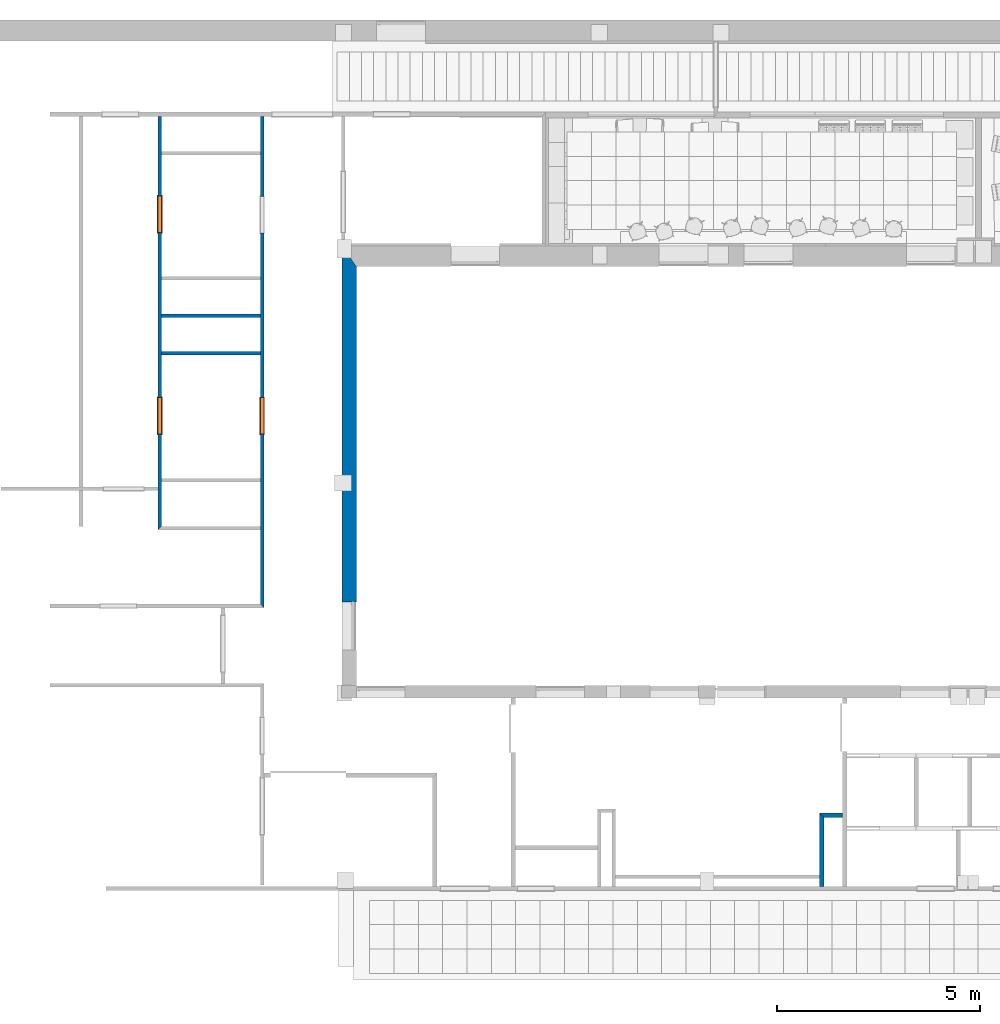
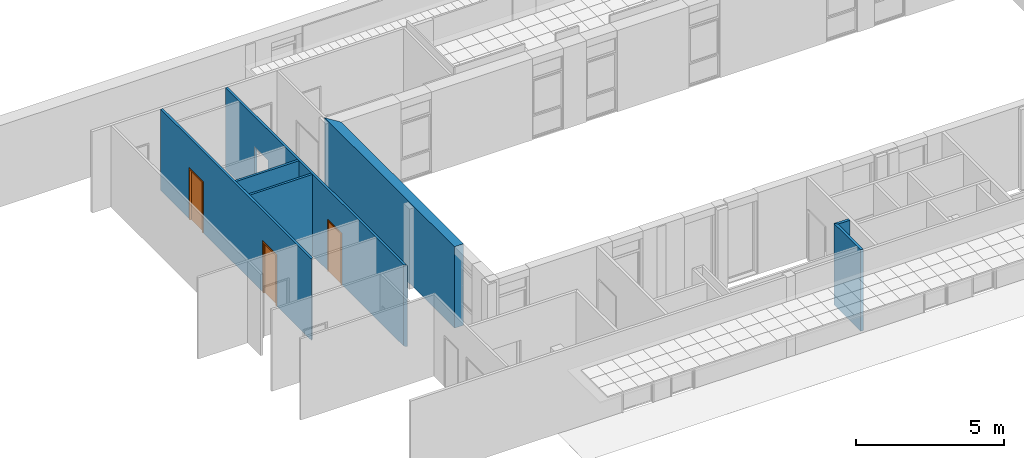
# One storey, part 28 of 60: 7 walls, 3 proxies, 4 openings.
"""IFC2X3 building model written with IfcOpenShell, lengths in millimetres."""

from ifc_helpers import new_model, entity, si_unit, converted_unit, derived_unit, money_unit, direction, frame, origin_with_axes, origin_2d_with_axis, place, context, subcontext, project, spatial, polyline, rectangle, outline, extrude, faceted_brep, source, transform, mapped, material, layer, layer_set, layer_usage, type_object, element, fill, save


model = new_model("IFC2X3")

# Units and contexts
model_context = context("Model", 3, precision=0.01, world=origin_with_axes(), true_north=direction((0.0, 1.0)))
body_context = subcontext(model_context, "Body", "Model", "MODEL_VIEW")
ifc_project = project(units=[si_unit("LENGTHUNIT", "METRE", prefix="MILLI"), si_unit("AREAUNIT", "SQUARE_METRE"), si_unit("VOLUMEUNIT", "CUBIC_METRE"), converted_unit("PLANEANGLEUNIT", "DEGREE", entity("IfcPlaneAngleMeasure", 0.0174532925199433), si_unit("PLANEANGLEUNIT", "RADIAN"), dimensions=[0, 0, 0, 0, 0, 0, 0]), money_unit("USD"), converted_unit("TIMEUNIT", "Year", entity("IfcTimeMeasure", 31557600.0), si_unit("TIMEUNIT", "SECOND"), dimensions=[0, 0, 1, 0, 0, 0, 0]), si_unit("MASSUNIT", "GRAM", prefix="KILO"), si_unit("THERMODYNAMICTEMPERATUREUNIT", "DEGREE_CELSIUS"), si_unit("LUMINOUSINTENSITYUNIT", "LUMEN"), si_unit("ENERGYUNIT", "JOULE", prefix="MEGA"), derived_unit("THERMALCONDUCTANCEUNIT", [(si_unit("POWERUNIT", "WATT"), 1), (si_unit("LENGTHUNIT", "METRE"), -1), (si_unit("THERMODYNAMICTEMPERATUREUNIT", "KELVIN"), -1)]), derived_unit("SPECIFICHEATCAPACITYUNIT", [(si_unit("ENERGYUNIT", "JOULE"), 1), (si_unit("MASSUNIT", "GRAM", prefix="KILO"), -1), (si_unit("THERMODYNAMICTEMPERATUREUNIT", "KELVIN"), -1)]), derived_unit("MASSDENSITYUNIT", [(si_unit("MASSUNIT", "GRAM", prefix="KILO"), 1), (si_unit("VOLUMEUNIT", "CUBIC_METRE"), -1)])], contexts=[model_context])

# Site, building, storey
site_placement = place(None, origin_with_axes())
site = spatial("IfcSite", under=ifc_project, at=site_placement, Name="Sitio", CompositionType="ELEMENT")
building_placement = place(site_placement, origin_with_axes())
building = spatial("IfcBuilding", under=site, at=building_placement, Name="Construcción", CompositionType="ELEMENT")
storey_placement = place(building_placement, frame((0.0, 0.0, 3650.0), z_axis=(0.0, 0.0, 1.0), x_axis=(1.0, 0.0, 0.0)))
storey = spatial("IfcBuildingStorey", under=building, at=storey_placement, Name="PLANTA 2ª", CompositionType="ELEMENT", Elevation=3650.0)

# Walls
ifc_material_1 = material(Name="ARQ_CE217_Gero")
ifc_layer_1 = layer(ifc_material_1, 150.0, ventilated="UNKNOWN")
ifc_material_2 = material(Name="ARQ_AI031_Aillament_Poliestireno expandido EPS")
ifc_layer_2 = layer(ifc_material_2, 140.0, ventilated="UNKNOWN")
ifc_material_3 = material(Name="ARQ_CE218_Ceramic")
ifc_layer_3 = layer(ifc_material_3, 50.0, ventilated="UNKNOWN")
ifc_material_4 = material(Name="ARQ_AM246_Arrebossat_De_Guix")
ifc_layer_4 = layer(ifc_material_4, 20.0, ventilated="UNKNOWN")
ifc_layer_set_1 = layer_set([ifc_layer_1, ifc_layer_2, ifc_layer_3, ifc_layer_4], Name="façana pati CR4")
ifc_layer_usage_1 = layer_usage(ifc_layer_set_1, "AXIS2", "POSITIVE", -360.0000000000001)
wall_type_1 = type_object("IfcWallType", Name="façana pati CR4 360", PredefinedType="NOTDEFINED")
wall_1_placement = place(storey_placement, frame((-28050.84818028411, -9964.97582371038, 0.0), z_axis=(0.0, 0.0, 1.0), x_axis=(0.0, 1.0, 0.0)))
element("IfcWallStandardCase", 1, at=wall_1_placement, inside=storey, type_object=wall_type_1, material=ifc_layer_usage_1, Name="MS-200", context=body_context, shape_type="SweptSolid", body=[
    extrude(outline(polyline([(0.0, -359.9999999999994), (8265.999999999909, -359.9999999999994), (8770.99999999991, 0.0), (0.0, 0.0), (0.0, -359.9999999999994)])), origin_with_axes(), (0.0, 0.0, 1.0), 3350.0),
])
ifc_layer_5 = layer(ifc_material_4, 10.0, ventilated="UNKNOWN")
ifc_layer_6 = layer(ifc_material_1, 90.0, ventilated="UNKNOWN")
ifc_layer_7 = layer(ifc_material_4, 10.0, ventilated="UNKNOWN")
ifc_layer_set_2 = layer_set([ifc_layer_5, ifc_layer_6, ifc_layer_7], Name="CR Enva Totxana")
ifc_layer_usage_2 = layer_usage(ifc_layer_set_2, "AXIS2", "POSITIVE", -110.0)
wall_type_2 = type_object("IfcWallType", Name="CR Enva Totxana 110", PredefinedType="NOTDEFINED")
wall_2_placement = place(storey_placement, frame((-16281.10900490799, -17083.97582371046, 0.0), z_axis=(0.0, 0.0, 1.0), x_axis=(0.0, 1.0, 0.0)))
element("IfcWallStandardCase", 2, at=wall_2_placement, inside=storey, type_object=wall_type_2, material=ifc_layer_usage_2, Name="MS-201", context=body_context, shape_type="SweptSolid", body=[
    extrude(outline(polyline([(109.9999999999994, -109.9999999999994), (1805.000000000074, -109.9999999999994), (1915.000000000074, 0.0), (109.9999999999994, 0.0), (109.9999999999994, -109.9999999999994)])), origin_with_axes(), (0.0, 0.0, 1.0), 3350.0),
])
ifc_layer_usage_3 = layer_usage(ifc_layer_set_2, "AXIS2", "POSITIVE", -110.0)
wall_3_placement = place(storey_placement, frame((-15716.10900490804, -15278.97582371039, 0.0), z_axis=(0.0, 0.0, 1.0), x_axis=(-1.0, 0.0, 0.0)))
element("IfcWallStandardCase", 3, at=wall_3_placement, inside=storey, type_object=wall_type_2, material=ifc_layer_usage_3, Name="MS-201", context=body_context, shape_type="SweptSolid", body=[
    extrude(outline(polyline([(0.0, -109.9999999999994), (564.9999999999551, -109.9999999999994), (454.9999999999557, 0.0), (0.0, 0.0), (0.0, -109.9999999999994)])), origin_with_axes(), (0.0, 0.0, 1.0), 3350.0),
])

# Wall, openings, proxy
ifc_layer_8 = layer(ifc_material_4, 10.0, ventilated="UNKNOWN")
ifc_layer_9 = layer(ifc_material_1, 70.0, ventilated="UNKNOWN")
ifc_layer_10 = layer(ifc_material_4, 10.0, ventilated="UNKNOWN")
ifc_layer_set_3 = layer_set([ifc_layer_8, ifc_layer_9, ifc_layer_10], Name="CR Enva Totxaneta")
ifc_layer_usage_4 = layer_usage(ifc_layer_set_3, "AXIS2", "POSITIVE", 0.0)
wall_type_3 = type_object("IfcWallType", Name="CR Enva Totxaneta 90", PredefinedType="NOTDEFINED")
wall_4_placement = place(storey_placement, frame((-29972.67583112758, -10020.40756299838, 0.0), z_axis=(0.0, 0.0, 1.0), x_axis=(0.0, 1.0, 0.0)))
wall_4 = element("IfcWallStandardCase", 4, at=wall_4_placement, inside=storey, type_object=wall_type_3, material=ifc_layer_usage_4, Name="MS-203", context=body_context, shape_type="SweptSolid", body=[
    extrude(outline(polyline([(-89.99999999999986, 0.0), (12019.96243373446, 0.0), (12019.96243373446, 89.99999999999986), (0.0, 89.99999999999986), (-89.99999999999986, 0.0)])), origin_with_axes(), (0.0, 0.0, 1.0), 3350.0),
])
opening_1_placement = place(wall_4_placement, frame((9595.054136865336, 0.0, 0.0), z_axis=(0.0, 0.0, 1.0), x_axis=(1.0, 0.0, 0.0)))
element("IfcOpeningElement", 5, at=opening_1_placement, cuts=wall_4, Name="PF-19D", context=body_context, shape_type="SweptSolid", body=[
    extrude(rectangle(XDim=900.0, YDim=2100.0, at=origin_2d_with_axis()), frame((0.0, 89.99999999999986, 1050.0), z_axis=(0.0, 1.0, 0.0), x_axis=(-1.0, 0.0, 0.0)), (0.0, 0.0, -1.0), 270.0),
    extrude(rectangle(XDim=944.0000000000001, YDim=2122.0, at=origin_2d_with_axis()), frame((0.0, 90.00000000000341, 1061.0), z_axis=(0.0, 1.0, 0.0), x_axis=(-1.0, 0.0, 0.0)), (0.0, 0.0, 1.0), 90.0),
    extrude(rectangle(XDim=944.0000000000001, YDim=2122.0, at=origin_2d_with_axis()), frame((0.0, 0.0, 1061.0), z_axis=(0.0, -1.0, 0.0), x_axis=(-1.0, 0.0, 0.0)), (0.0, 0.0, 1.0), 90.0),
])
opening_2_placement = place(wall_4_placement, frame((4639.248651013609, 0.0, 0.0), z_axis=(0.0, 0.0, 1.0), x_axis=(1.0, 0.0, 0.0)))
opening_2 = element("IfcOpeningElement", 6, at=opening_2_placement, cuts=wall_4, Name="PF-23D", context=body_context, shape_type="SweptSolid", body=[
    extrude(rectangle(XDim=900.0000000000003, YDim=2100.0, at=origin_2d_with_axis()), frame((0.0, -89.99999999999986, 1050.0), z_axis=(0.0, 1.0, 0.0), x_axis=(1.0, 0.0, 0.0)), (0.0, 0.0, 1.0), 270.0),
    extrude(rectangle(XDim=944.0000000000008, YDim=2122.0, at=origin_2d_with_axis()), frame((0.0, 0.0, 1061.0), z_axis=(0.0, 1.0, 0.0), x_axis=(1.0, 0.0, 0.0)), (0.0, 0.0, -1.0), 90.0),
    extrude(rectangle(XDim=944.0000000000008, YDim=2122.0, at=origin_2d_with_axis()), frame((0.0, 89.99999999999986, 1061.0), z_axis=(0.0, -1.0, 0.0), x_axis=(1.0, 0.0, 0.0)), (0.0, 0.0, -1.0), 90.0),
])
building_element_proxy_type = type_object("IfcBuildingElementProxyType", Name="Puerta 27", PredefinedType="NOTDEFINED")
shared_shape_1 = source(origin_with_axes(), body_context, "Body", "Brep", [
    faceted_brep([(-472.0000000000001, -109.0, 0.0), (-472.0000000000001, -90.0, 0.0), (-422.0000000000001, -90.0, 0.0), (-422.0000000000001, -109.0, 0.0), (-472.0000000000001, -109.0000000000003, 2122.0), (-472.0000000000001, -90.00000000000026, 2122.0), (-422.0000000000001, -90.00000000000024, 2072.0), (-422.0000000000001, -109.0000000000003, 2072.0)], [[[0, 1, 2, 3]], [[4, 5, 1, 0]], [[1, 5, 6, 2]], [[3, 2, 6, 7]], [[0, 3, 7, 4]], [[7, 6, 5, 4]]]),
    faceted_brep([(472.0000000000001, -109.0000000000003, 2122.0), (472.0000000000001, -90.00000000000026, 2122.0), (422.0000000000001, -90.00000000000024, 2072.0), (422.0000000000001, -109.0000000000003, 2072.0), (472.0000000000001, -109.0, 0.0), (472.0000000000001, -90.0, 0.0), (422.0000000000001, -90.0, 0.0), (422.0000000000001, -109.0, 0.0)], [[[0, 1, 2, 3]], [[4, 5, 1, 0]], [[1, 5, 6, 2]], [[3, 2, 6, 7]], [[0, 3, 7, 4]], [[7, 6, 5, 4]]]),
    faceted_brep([(-472.0000000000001, -109.0000000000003, 2122.0), (-472.0000000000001, -90.00000000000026, 2122.0), (-422.0000000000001, -90.00000000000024, 2072.0), (-422.0000000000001, -109.0000000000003, 2072.0), (472.0000000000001, -109.0000000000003, 2122.0), (472.0000000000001, -90.00000000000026, 2122.0), (422.0000000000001, -90.00000000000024, 2072.0), (422.0000000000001, -109.0000000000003, 2072.0)], [[[0, 1, 2, 3]], [[4, 5, 1, 0]], [[1, 5, 6, 2]], [[3, 2, 6, 7]], [[0, 3, 7, 4]], [[7, 6, 5, 4]]]),
    faceted_brep([(-472.0000000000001, 19.0, 0.0), (-422.0000000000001, 19.0, 0.0), (-422.0000000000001, 0.0, 0.0), (-472.0000000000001, 0.0, 0.0), (-472.0000000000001, 18.99999999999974, 2122.0), (-422.0000000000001, 18.99999999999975, 2072.0), (-422.0000000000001, 0.0, 2072.0), (-472.0000000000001, 0.0, 2122.0)], [[[0, 1, 2, 3]], [[0, 4, 5, 1]], [[1, 5, 6, 2]], [[3, 2, 6, 7]], [[4, 0, 3, 7]], [[5, 4, 7, 6]]]),
    faceted_brep([(472.0000000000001, 18.99999999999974, 2122.0), (422.0000000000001, 18.99999999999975, 2072.0), (422.0000000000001, 0.0, 2072.0), (472.0000000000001, 0.0, 2122.0), (472.0000000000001, 19.0, 0.0), (422.0000000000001, 19.0, 0.0), (422.0000000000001, 0.0, 0.0), (472.0000000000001, 0.0, 0.0)], [[[0, 1, 2, 3]], [[0, 4, 5, 1]], [[1, 5, 6, 2]], [[3, 2, 6, 7]], [[4, 0, 3, 7]], [[5, 4, 7, 6]]]),
    faceted_brep([(-472.0000000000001, 18.99999999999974, 2122.0), (-422.0, 18.99999999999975, 2072.0), (-422.0, 0.0, 2072.0), (-472.0000000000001, 0.0, 2122.0), (472.0000000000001, 18.99999999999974, 2122.0), (422.0, 18.99999999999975, 2072.0), (422.0, 0.0, 2072.0), (472.0000000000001, 0.0, 2122.0)], [[[0, 1, 2, 3]], [[0, 4, 5, 1]], [[1, 5, 6, 2]], [[3, 2, 6, 7]], [[4, 0, 3, 7]], [[5, 4, 7, 6]]]),
    faceted_brep([(-409.9999999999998, -40.0, 0.0), (-410.0000000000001, -40.0, 2060.0), (-410.0000000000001, -90.0, 2060.0), (-410.0000000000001, -90.0, 0.0), (-422.0000000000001, -40.0, 2060.0), (-422.0000000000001, -40.0, 0.0), (-422.0000000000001, 0.0, 2060.0), (-449.9999999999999, 0.0, 2060.0), (-449.9999999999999, -90.0, 2060.0), (-449.9999999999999, -90.0, 0.0), (-449.9999999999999, 0.0, 0.0), (-422.0000000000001, 0.0, 0.0)], [[[0, 1, 2, 3]], [[4, 1, 0, 5]], [[4, 6, 7, 8, 2, 1]], [[3, 2, 8, 9]], [[5, 0, 3, 9, 10, 11]], [[6, 4, 5, 11]], [[6, 11, 10, 7]], [[10, 9, 8, 7]]]),
    faceted_brep([(422.0000000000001, -40.0, 2060.0), (410.0000000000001, -40.0, 2060.0), (410.0000000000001, -90.0, 2060.0), (449.9999999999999, -90.0, 2060.0), (449.9999999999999, 0.0, 2060.0), (422.0000000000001, 0.0, 2060.0), (422.0000000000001, -40.0, 0.0), (410.0000000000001, -40.0, 0.0), (410.0000000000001, -90.0, 0.0), (449.9999999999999, -90.0, 0.0), (449.9999999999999, 0.0, 0.0), (422.0000000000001, 0.0, 0.0)], [[[0, 1, 2, 3, 4, 5]], [[1, 0, 6, 7]], [[1, 7, 8, 2]], [[3, 2, 8, 9]], [[4, 3, 9, 10]], [[11, 5, 4, 10]], [[0, 5, 11, 6]], [[6, 11, 10, 9, 8, 7]]]),
    faceted_brep([(-422.0000000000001, 0.0, 2072.0), (-422.0000000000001, 0.0, 2060.0), (-450.0, 0.0, 2060.0), (-450.0, 0.0, 2100.0), (450.0, 0.0, 2100.0), (450.0, 0.0, 2060.0), (422.0000000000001, 0.0, 2060.0), (422.0000000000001, 0.0, 2072.0), (-422.0000000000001, -40.0, 2072.0), (-422.0000000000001, -40.0, 2060.0), (-410.0000000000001, -40.0, 2060.0), (-410.0000000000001, -90.0, 2060.0), (-450.0, -90.0, 2060.0), (-450.0, -90.0, 2100.0), (450.0, -90.0, 2100.0), (450.0, -90.0, 2060.0), (422.0000000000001, -40.0, 2060.0), (410.0000000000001, -90.0, 2060.0), (410.0000000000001, -40.0, 2060.0), (422.0000000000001, -40.0, 2072.0)], [[[0, 1, 2, 3, 4, 5, 6, 7]], [[1, 0, 8, 9]], [[9, 10, 11, 12, 2, 1]], [[2, 12, 13, 3]], [[3, 13, 14, 4]], [[4, 14, 15, 5]], [[16, 6, 5, 15, 17, 18]], [[7, 6, 16, 19]], [[0, 7, 19, 8]], [[16, 18, 10, 9, 8, 19]], [[10, 18, 17, 11]], [[17, 15, 14, 13, 12, 11]]]),
    faceted_brep([(421.9999999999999, 0.0, 0.0), (421.9999999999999, -40.0, 0.0), (-422.0000000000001, -40.0, 0.0), (-422.0000000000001, 0.0, 0.0), (421.9999999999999, 0.0, 2072.0), (421.9999999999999, -40.00000000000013, 2072.0), (-422.0000000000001, -40.00000000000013, 2072.0), (-422.0000000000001, 0.0, 2072.0)], [[[0, 1, 2, 3]], [[4, 5, 1, 0]], [[1, 5, 6, 2]], [[3, 2, 6, 7]], [[0, 3, 7, 4]], [[7, 6, 5, 4]]]),
])
proxy_1_placement = place(opening_2_placement, frame((-450.0000000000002, 0.0, 0.0), z_axis=(0.0, 0.0, 1.0), x_axis=(1.0, 0.0, 0.0)))
proxy_1 = element("IfcBuildingElementProxy", 7, at=proxy_1_placement, inside=storey, type_object=building_element_proxy_type, Name="PF-23D", context=body_context, shape_type="MappedRepresentation", body=[
    mapped(shared_shape_1, transform((450.0000000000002, 89.99999999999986, 0.0))),
])
fill(opening_2, proxy_1)

# Wall, openings, proxies
ifc_layer_usage_5 = layer_usage(ifc_layer_set_3, "AXIS2", "POSITIVE", 0.0)
wall_5_placement = place(storey_placement, frame((-32498.65775403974, -8102.702553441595, 0.0), z_axis=(0.0, 0.0, 1.0), x_axis=(0.0, 1.0, 0.0)))
wall_5 = element("IfcWallStandardCase", 8, at=wall_5_placement, inside=storey, type_object=wall_type_3, material=ifc_layer_usage_5, Name="MS-203", context=body_context, shape_type="SweptSolid", body=[
    extrude(outline(polyline([(0.0, 0.0), (10102.25742417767, 0.0), (10102.25742417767, 90.00000000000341), (-89.99999999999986, 90.00000000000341), (0.0, 0.0)])), origin_with_axes(), (0.0, 0.0, 1.0), 3350.0),
])
opening_3_placement = place(wall_5_placement, frame((7692.11194646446, 0.0, 0.0), z_axis=(0.0, 0.0, 1.0), x_axis=(1.0, 0.0, 0.0)))
opening_3 = element("IfcOpeningElement", 9, at=opening_3_placement, cuts=wall_5, Name="PF-20D", context=body_context, shape_type="SweptSolid", body=[
    extrude(rectangle(XDim=899.9999999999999, YDim=2100.0, at=origin_2d_with_axis()), frame((0.0, 90.00000000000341, 1050.0), z_axis=(0.0, -1.0, 0.0), x_axis=(-1.0, 0.0, 0.0)), (0.0, 0.0, 1.0), 270.0),
    extrude(rectangle(XDim=944.0, YDim=2122.0, at=origin_2d_with_axis()), frame((0.0, 90.00000000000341, 1061.0), z_axis=(0.0, -1.0, 0.0), x_axis=(-1.0, 0.0, 0.0)), (0.0, 0.0, -1.0), 90.0),
    extrude(rectangle(XDim=944.0000000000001, YDim=2122.000000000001, at=origin_2d_with_axis()), frame((0.0, 0.0, 1061.0), z_axis=(0.0, 1.0, 0.0), x_axis=(-1.0, 0.0, 0.0)), (0.0, 0.0, -1.0), 90.0),
])
opening_4_placement = place(wall_5_placement, frame((2727.302552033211, 0.0, 0.0), z_axis=(0.0, 0.0, 1.0), x_axis=(1.0, 0.0, 0.0)))
opening_4 = element("IfcOpeningElement", 10, at=opening_4_placement, cuts=wall_5, Name="PF-22D", context=body_context, shape_type="SweptSolid", body=[
    extrude(rectangle(XDim=900.0000000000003, YDim=2100.0, at=origin_2d_with_axis()), frame((0.0, 90.00000000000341, 1050.0), z_axis=(0.0, 1.0, 0.0), x_axis=(1.0, 0.0, 0.0)), (0.0, 0.0, -1.0), 270.0),
    extrude(rectangle(XDim=944.0000000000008, YDim=2122.0, at=origin_2d_with_axis()), frame((0.0, 90.00000000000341, 1061.0), z_axis=(0.0, 1.0, 0.0), x_axis=(1.0, 0.0, 0.0)), (0.0, 0.0, 1.0), 90.0),
    extrude(rectangle(XDim=944.0000000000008, YDim=2122.000000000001, at=origin_2d_with_axis()), frame((0.0, 0.0, 1061.0), z_axis=(0.0, -1.0, 0.0), x_axis=(1.0, 0.0, 0.0)), (0.0, 0.0, 1.0), 90.0),
])
proxy_2_placement = place(opening_3_placement, frame((450.0000000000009, 0.0, 0.0), z_axis=(0.0, 0.0, 1.0), x_axis=(-1.0, 0.0, 0.0)))
proxy_2 = element("IfcBuildingElementProxy", 11, at=proxy_2_placement, inside=storey, type_object=building_element_proxy_type, Name="PF-20D", context=body_context, shape_type="MappedRepresentation", body=[
    mapped(shared_shape_1, transform((450.0, 0.0, 0.0))),
])
fill(opening_3, proxy_2)
shared_shape_2 = source(origin_with_axes(), body_context, "Body", "Brep", [
    faceted_brep([(472.0000000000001, -109.0, 0.0), (422.0000000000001, -109.0, 0.0), (422.0000000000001, -90.0, 0.0), (472.0000000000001, -90.0, 0.0), (472.0000000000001, -109.0000000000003, 2122.0), (422.0000000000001, -109.0000000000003, 2072.0), (422.0000000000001, -90.00000000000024, 2072.0), (472.0000000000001, -90.00000000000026, 2122.0)], [[[0, 1, 2, 3]], [[0, 4, 5, 1]], [[1, 5, 6, 2]], [[3, 2, 6, 7]], [[4, 0, 3, 7]], [[5, 4, 7, 6]]]),
    faceted_brep([(-472.0000000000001, -109.0000000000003, 2122.0), (-422.0000000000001, -109.0000000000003, 2072.0), (-422.0000000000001, -90.00000000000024, 2072.0), (-472.0000000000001, -90.00000000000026, 2122.0), (-472.0000000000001, -109.0, 0.0), (-422.0000000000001, -109.0, 0.0), (-422.0000000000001, -90.0, 0.0), (-472.0000000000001, -90.0, 0.0)], [[[0, 1, 2, 3]], [[0, 4, 5, 1]], [[1, 5, 6, 2]], [[3, 2, 6, 7]], [[4, 0, 3, 7]], [[5, 4, 7, 6]]]),
    faceted_brep([(472.0000000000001, -109.0000000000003, 2122.0), (422.0000000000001, -109.0000000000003, 2072.0), (422.0000000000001, -90.00000000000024, 2072.0), (472.0000000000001, -90.00000000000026, 2122.0), (-472.0000000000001, -109.0000000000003, 2122.0), (-422.0000000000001, -109.0000000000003, 2072.0), (-422.0000000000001, -90.00000000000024, 2072.0), (-472.0000000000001, -90.00000000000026, 2122.0)], [[[0, 1, 2, 3]], [[0, 4, 5, 1]], [[1, 5, 6, 2]], [[3, 2, 6, 7]], [[4, 0, 3, 7]], [[5, 4, 7, 6]]]),
    faceted_brep([(472.0000000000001, 19.0, 0.0), (472.0000000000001, 0.0, 0.0), (422.0000000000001, 0.0, 0.0), (422.0000000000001, 19.0, 0.0), (472.0000000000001, 18.99999999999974, 2122.0), (472.0000000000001, 0.0, 2122.0), (422.0000000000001, 0.0, 2072.0), (422.0000000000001, 18.99999999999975, 2072.0)], [[[0, 1, 2, 3]], [[4, 5, 1, 0]], [[1, 5, 6, 2]], [[3, 2, 6, 7]], [[0, 3, 7, 4]], [[7, 6, 5, 4]]]),
    faceted_brep([(-472.0000000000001, 18.99999999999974, 2122.0), (-472.0000000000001, 0.0, 2122.0), (-422.0000000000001, 0.0, 2072.0), (-422.0000000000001, 18.99999999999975, 2072.0), (-472.0000000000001, 19.0, 0.0), (-472.0000000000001, 0.0, 0.0), (-422.0000000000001, 0.0, 0.0), (-422.0000000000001, 19.0, 0.0)], [[[0, 1, 2, 3]], [[4, 5, 1, 0]], [[1, 5, 6, 2]], [[3, 2, 6, 7]], [[0, 3, 7, 4]], [[7, 6, 5, 4]]]),
    faceted_brep([(472.0000000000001, 18.99999999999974, 2122.0), (472.0000000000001, 0.0, 2122.0), (422.0, 0.0, 2072.0), (422.0, 18.99999999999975, 2072.0), (-472.0000000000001, 18.99999999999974, 2122.0), (-472.0000000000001, 0.0, 2122.0), (-422.0, 0.0, 2072.0), (-422.0, 18.99999999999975, 2072.0)], [[[0, 1, 2, 3]], [[4, 5, 1, 0]], [[1, 5, 6, 2]], [[3, 2, 6, 7]], [[0, 3, 7, 4]], [[7, 6, 5, 4]]]),
    faceted_brep([(409.9999999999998, -40.0, 0.0), (410.0000000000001, -90.0, 0.0), (410.0000000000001, -90.0, 2060.0), (410.0000000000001, -40.0, 2060.0), (422.0000000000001, -40.0, 0.0), (422.0000000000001, 0.0, 0.0), (449.9999999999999, 0.0, 0.0), (449.9999999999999, -90.0, 0.0), (449.9999999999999, -90.0, 2060.0), (422.0000000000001, -40.0, 2060.0), (449.9999999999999, 0.0, 2060.0), (422.0000000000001, 0.0, 2060.0)], [[[0, 1, 2, 3]], [[4, 5, 6, 7, 1, 0]], [[1, 7, 8, 2]], [[9, 3, 2, 8, 10, 11]], [[9, 4, 0, 3]], [[11, 5, 4, 9]], [[11, 10, 6, 5]], [[6, 10, 8, 7]]]),
    faceted_brep([(-422.0000000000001, -40.0, 2060.0), (-422.0000000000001, 0.0, 2060.0), (-449.9999999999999, 0.0, 2060.0), (-449.9999999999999, -90.0, 2060.0), (-410.0000000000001, -90.0, 2060.0), (-410.0000000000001, -40.0, 2060.0), (-422.0000000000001, -40.0, 0.0), (-422.0000000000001, 0.0, 0.0), (-449.9999999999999, 0.0, 0.0), (-449.9999999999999, -90.0, 0.0), (-410.0000000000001, -90.0, 0.0), (-410.0000000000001, -40.0, 0.0)], [[[0, 1, 2, 3, 4, 5]], [[0, 6, 7, 1]], [[7, 8, 2, 1]], [[2, 8, 9, 3]], [[3, 9, 10, 4]], [[5, 4, 10, 11]], [[5, 11, 6, 0]], [[6, 11, 10, 9, 8, 7]]]),
    faceted_brep([(422.0000000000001, 0.0, 2072.0), (-422.0000000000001, 0.0, 2072.0), (-422.0000000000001, 0.0, 2060.0), (-450.0, 0.0, 2060.0), (-450.0, 0.0, 2100.0), (450.0, 0.0, 2100.0), (450.0, 0.0, 2060.0), (422.0000000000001, 0.0, 2060.0), (422.0000000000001, -40.0, 2072.0), (-422.0000000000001, -40.0, 2072.0), (-422.0000000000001, -40.0, 2060.0), (-410.0000000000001, -40.0, 2060.0), (-410.0000000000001, -90.0, 2060.0), (-450.0, -90.0, 2060.0), (-450.0, -90.0, 2100.0), (450.0, -90.0, 2100.0), (450.0, -90.0, 2060.0), (422.0000000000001, -40.0, 2060.0), (410.0000000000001, -90.0, 2060.0), (410.0000000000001, -40.0, 2060.0)], [[[0, 1, 2, 3, 4, 5, 6, 7]], [[0, 8, 9, 1]], [[1, 9, 10, 2]], [[10, 11, 12, 13, 3, 2]], [[4, 3, 13, 14]], [[5, 4, 14, 15]], [[6, 5, 15, 16]], [[17, 7, 6, 16, 18, 19]], [[7, 17, 8, 0]], [[10, 9, 8, 17, 19, 11]], [[19, 18, 12, 11]], [[12, 18, 16, 15, 14, 13]]]),
    faceted_brep([(-421.9999999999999, 0.0, 0.0), (422.0000000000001, 0.0, 0.0), (422.0000000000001, -40.0, 0.0), (-421.9999999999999, -40.0, 0.0), (-421.9999999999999, 0.0, 2072.0), (422.0000000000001, 0.0, 2072.0), (422.0000000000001, -40.00000000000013, 2072.0), (-421.9999999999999, -40.00000000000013, 2072.0)], [[[0, 1, 2, 3]], [[0, 4, 5, 1]], [[1, 5, 6, 2]], [[3, 2, 6, 7]], [[4, 0, 3, 7]], [[5, 4, 7, 6]]]),
])
proxy_3_placement = place(opening_4_placement, frame((450.0000000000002, 0.0, 0.0), z_axis=(0.0, 0.0, 1.0), x_axis=(-1.0, 0.0, 0.0)))
proxy_3 = element("IfcBuildingElementProxy", 12, at=proxy_3_placement, inside=storey, type_object=building_element_proxy_type, Name="PF-22D", context=body_context, shape_type="MappedRepresentation", body=[
    mapped(shared_shape_2, transform((450.0000000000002, 0.0, 0.0))),
])
fill(opening_4, proxy_3)

# Walls
ifc_layer_usage_6 = layer_usage(ifc_layer_set_3, "AXIS2", "POSITIVE", 0.0)
wall_6_placement = place(storey_placement, frame((-29972.67583112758, -3793.13918206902, 0.0), z_axis=(0.0, 0.0, 1.0), x_axis=(-1.0, 0.0, 0.0)))
element("IfcWallStandardCase", 13, at=wall_6_placement, inside=storey, type_object=wall_type_3, material=ifc_layer_usage_6, Name="MS-203", context=body_context, shape_type="SweptSolid", body=[
    extrude(outline(polyline([(89.9999999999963, 0.0), (2525.981922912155, 0.0), (2525.981922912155, 89.99999999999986), (89.9999999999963, 89.99999999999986), (89.9999999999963, 0.0)])), origin_with_axes(), (0.0, 0.0, 1.0), 3350.0),
])
ifc_layer_usage_7 = layer_usage(ifc_layer_set_3, "AXIS2", "POSITIVE", 0.0)
wall_7_placement = place(storey_placement, frame((-29972.67583112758, -2869.661316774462, 0.0), z_axis=(0.0, 0.0, 1.0), x_axis=(-1.0, 0.0, 0.0)))
element("IfcWallStandardCase", 14, at=wall_7_placement, inside=storey, type_object=wall_type_3, material=ifc_layer_usage_7, Name="MS-203", context=body_context, shape_type="SweptSolid", body=[
    extrude(outline(polyline([(89.9999999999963, 0.0), (2525.981922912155, 0.0), (2525.981922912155, 89.99999999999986), (89.9999999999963, 89.99999999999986), (89.9999999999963, 0.0)])), origin_with_axes(), (0.0, 0.0, 1.0), 3350.0),
])

save(model, "model.ifc")
